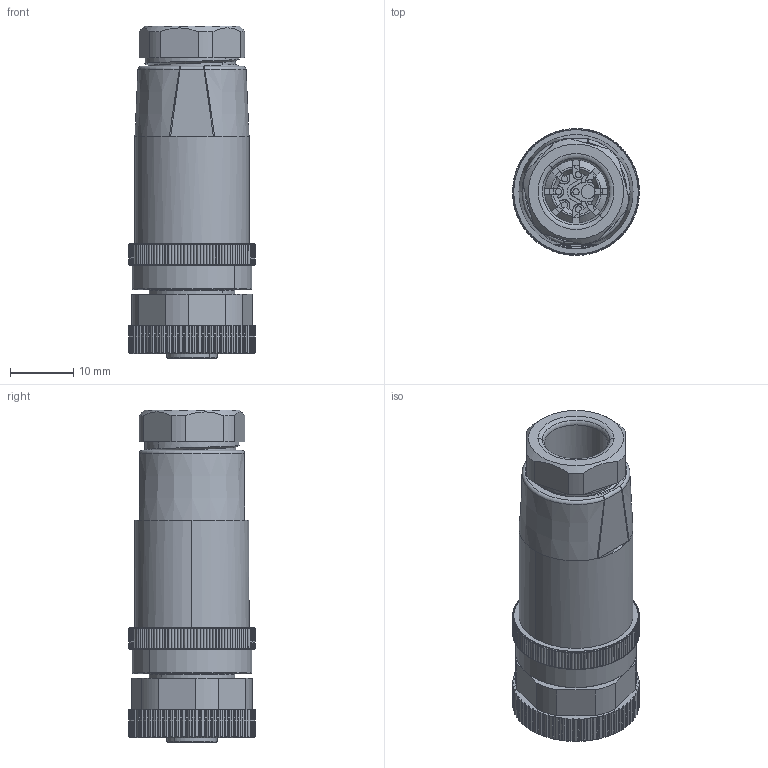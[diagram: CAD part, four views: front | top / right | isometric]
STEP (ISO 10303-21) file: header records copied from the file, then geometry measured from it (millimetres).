
FILE_DESCRIPTION((''),'2;1');
FILE_NAME('XC-M12-WK-PG9','2025-06-23T10:51:26',('lyj'),(''),'CREO PARAMETRIC BY PTC INC, 2019010','CREO PARAMETRIC BY PTC INC, 2019010','');
FILE_SCHEMA(('CONFIG_CONTROL_DESIGN'));
Products named in the file (1): XC-M12-WK-PG9
Bounding box: 20 x 20 x 52.38 mm (x, y, z)
Volume: 8748.7 mm3; surface area: 12445.6 mm2
Topology: 1 solids, 26 shells, 2054 faces, 5530 edges, 3564 vertices
Faces by surface type: cylinder 955, plane 522, cone 398, bspline 90, extrusion 57, torus 28, sphere 4
Entity records: 98066 total; most frequent: CARTESIAN_POINT 48325, ORIENTED_EDGE 11052, DIRECTION 9612, EDGE_CURVE 5526, AXIS2_PLACEMENT_3D 3772, VERTEX_POINT 3564, EDGE_LOOP 2182, VECTOR 2068
